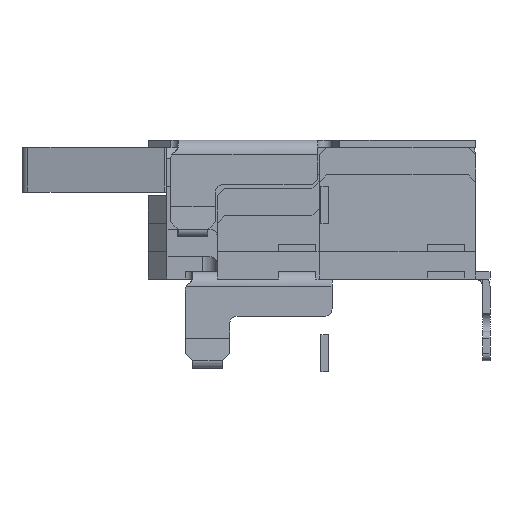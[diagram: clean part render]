
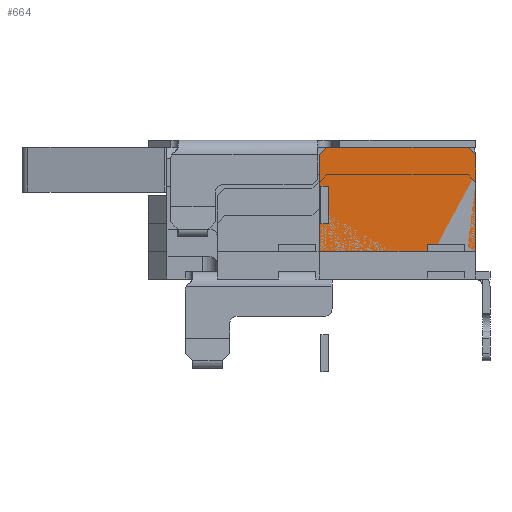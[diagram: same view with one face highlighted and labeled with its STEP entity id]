
A CAD part, left-side view. The second image highlights one B-rep face of the part: STEP entity #664.
In plain terms, the highlighted planar face has unit normal (-1, 0, 0).
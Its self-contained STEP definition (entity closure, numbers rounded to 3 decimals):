
#664 = ADVANCED_FACE( '', ( #1307 ), #1308, .F. );
#1307 = FACE_OUTER_BOUND( '', #1963, .T. );
#1308 = PLANE( '', #1964 );
#1963 = EDGE_LOOP( '', ( #3869, #3870, #3871, #3872, #3873, #3874, #3875, #3876, #3877, #3878, #3879 ) );
#1964 = AXIS2_PLACEMENT_3D( '', #3880, #3881, #3882 );
#3869 = ORIENTED_EDGE( '', *, *, #4642, .T. );
#3870 = ORIENTED_EDGE( '', *, *, #4746, .F. );
#3871 = ORIENTED_EDGE( '', *, *, #4345, .T. );
#3872 = ORIENTED_EDGE( '', *, *, #4182, .T. );
#3873 = ORIENTED_EDGE( '', *, *, #4639, .T. );
#3874 = ORIENTED_EDGE( '', *, *, #4567, .F. );
#3875 = ORIENTED_EDGE( '', *, *, #4784, .T. );
#3876 = ORIENTED_EDGE( '', *, *, #4739, .F. );
#3877 = ORIENTED_EDGE( '', *, *, #4782, .T. );
#3878 = ORIENTED_EDGE( '', *, *, #4241, .T. );
#3879 = ORIENTED_EDGE( '', *, *, #4705, .T. );
#3880 = CARTESIAN_POINT( '', ( -2.475, -2.08, 1.4 ) );
#3881 = DIRECTION( '', ( 1., 0., 0. ) );
#3882 = DIRECTION( '', ( 0., 1., 0. ) );
#4182 = EDGE_CURVE( '', #5103, #5104, #5105, .T. );
#4241 = EDGE_CURVE( '', #5205, #5203, #5206, .T. );
#4345 = EDGE_CURVE( '', #5374, #5103, #5377, .T. );
#4567 = EDGE_CURVE( '', #5718, #5719, #5720, .T. );
#4639 = EDGE_CURVE( '', #5104, #5719, #5814, .T. );
#4642 = EDGE_CURVE( '', #5819, #5817, #5820, .T. );
#4705 = EDGE_CURVE( '', #5203, #5819, #5900, .T. );
#4739 = EDGE_CURVE( '', #5934, #5936, #5937, .T. );
#4746 = EDGE_CURVE( '', #5374, #5817, #5944, .T. );
#4782 = EDGE_CURVE( '', #5934, #5205, #5982, .T. );
#4784 = EDGE_CURVE( '', #5718, #5936, #5984, .T. );
#5103 = VERTEX_POINT( '', #6503 );
#5104 = VERTEX_POINT( '', #6504 );
#5105 = LINE( '', #6505, #6506 );
#5203 = VERTEX_POINT( '', #6647 );
#5205 = VERTEX_POINT( '', #6650 );
#5206 = LINE( '', #6651, #6652 );
#5374 = VERTEX_POINT( '', #6899 );
#5377 = LINE( '', #6904, #6905 );
#5718 = VERTEX_POINT( '', #7458 );
#5719 = VERTEX_POINT( '', #7459 );
#5720 = LINE( '', #7460, #7461 );
#5814 = LINE( '', #7612, #7613 );
#5817 = VERTEX_POINT( '', #7617 );
#5819 = VERTEX_POINT( '', #7620 );
#5820 = LINE( '', #7621, #7622 );
#5900 = LINE( '', #7752, #7753 );
#5934 = VERTEX_POINT( '', #7806 );
#5936 = VERTEX_POINT( '', #7809 );
#5937 = LINE( '', #7810, #7811 );
#5944 = LINE( '', #7822, #7823 );
#5982 = LINE( '', #7886, #7887 );
#5984 = LINE( '', #7889, #7890 );
#6503 = CARTESIAN_POINT( '', ( -2.475, -1.93, 0.1 ) );
#6504 = CARTESIAN_POINT( '', ( -2.475, -1.93, 0. ) );
#6505 = CARTESIAN_POINT( '', ( -2.475, -1.93, 0.1 ) );
#6506 = VECTOR( '', #8160, 1000. );
#6647 = CARTESIAN_POINT( '', ( -2.475, 0.02, 0.95 ) );
#6650 = CARTESIAN_POINT( '', ( -2.475, 0.02, 1.3 ) );
#6651 = CARTESIAN_POINT( '', ( -2.475, 0.02, 1.4 ) );
#6652 = VECTOR( '', #8219, 1000. );
#6899 = CARTESIAN_POINT( '', ( -2.475, -1.43, 0.1 ) );
#6904 = CARTESIAN_POINT( '', ( -2.475, -1.43, 0.1 ) );
#6905 = VECTOR( '', #8313, 1000. );
#7458 = CARTESIAN_POINT( '', ( -2.475, -2.08, 1.3 ) );
#7459 = CARTESIAN_POINT( '', ( -2.475, -2.08, 0. ) );
#7460 = CARTESIAN_POINT( '', ( -2.475, -2.08, 1.4 ) );
#7461 = VECTOR( '', #8569, 1000. );
#7612 = CARTESIAN_POINT( '', ( -2.475, -2.08, 0. ) );
#7613 = VECTOR( '', #8622, 1000. );
#7617 = CARTESIAN_POINT( '', ( -2.475, -1.43, 0. ) );
#7620 = CARTESIAN_POINT( '', ( -2.475, 0.02, 0. ) );
#7621 = CARTESIAN_POINT( '', ( -2.475, -2.08, 0. ) );
#7622 = VECTOR( '', #8625, 1000. );
#7752 = CARTESIAN_POINT( '', ( -2.475, 0.02, 0.85 ) );
#7753 = VECTOR( '', #8682, 1000. );
#7806 = CARTESIAN_POINT( '', ( -2.475, -0.08, 1.4 ) );
#7809 = CARTESIAN_POINT( '', ( -2.475, -1.98, 1.4 ) );
#7810 = CARTESIAN_POINT( '', ( -2.475, -2.08, 1.4 ) );
#7811 = VECTOR( '', #8703, 1000. );
#7822 = CARTESIAN_POINT( '', ( -2.475, -1.43, 0.1 ) );
#7823 = VECTOR( '', #8708, 1000. );
#7886 = CARTESIAN_POINT( '', ( -2.475, -0.08, 1.4 ) );
#7887 = VECTOR( '', #8728, 1000. );
#7889 = CARTESIAN_POINT( '', ( -2.475, -1.98, 1.4 ) );
#7890 = VECTOR( '', #8729, 1000. );
#8160 = DIRECTION( '', ( 0., 0., -1. ) );
#8219 = DIRECTION( '', ( 0., 0., -1. ) );
#8313 = DIRECTION( '', ( 0., -1., 0. ) );
#8569 = DIRECTION( '', ( 0., 0., -1. ) );
#8622 = DIRECTION( '', ( 0., -1., 0. ) );
#8625 = DIRECTION( '', ( 0., -1., 0. ) );
#8682 = DIRECTION( '', ( 0., 0., -1. ) );
#8703 = DIRECTION( '', ( 0., -1., 0. ) );
#8708 = DIRECTION( '', ( 0., 0., -1. ) );
#8728 = DIRECTION( '', ( 0., 0.707, -0.707 ) );
#8729 = DIRECTION( '', ( 0., 0.707, 0.707 ) );
